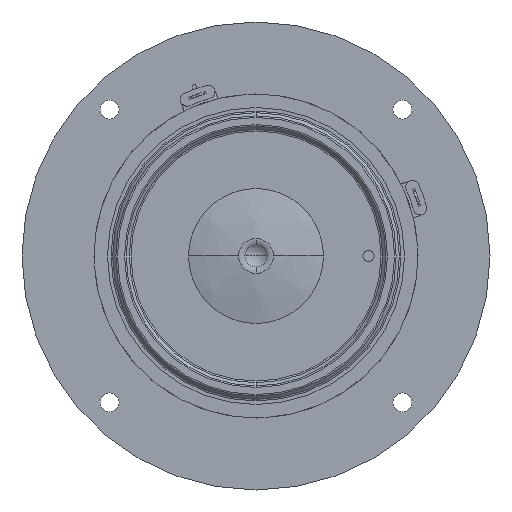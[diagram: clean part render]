
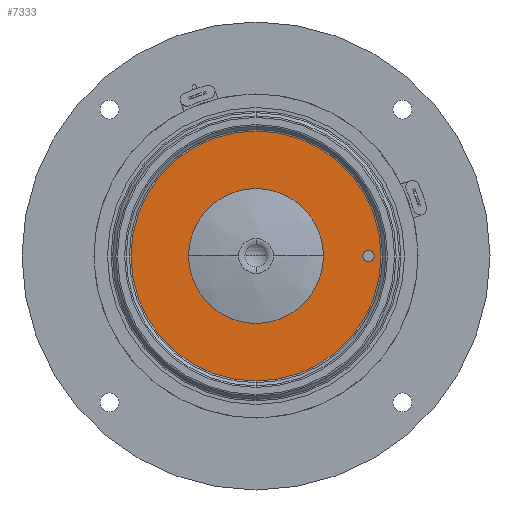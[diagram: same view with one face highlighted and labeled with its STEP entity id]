
A CAD part, front view. The second image highlights one B-rep face of the part: STEP entity #7333.
In plain terms, the highlighted planar face has unit normal (0, -1, 0).
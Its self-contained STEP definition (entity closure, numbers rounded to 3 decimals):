
#279 = CARTESIAN_POINT ( 'NONE',  ( 25., -29.6, 1.25 ) ) ;
#363 = EDGE_LOOP ( 'NONE', ( #1094, #18107 ) ) ;
#394 = CARTESIAN_POINT ( 'NONE',  ( 0., -29.6, 27.793 ) ) ;
#427 = CARTESIAN_POINT ( 'NONE',  ( 0., -29.6, -27.793 ) ) ;
#436 = DIRECTION ( 'NONE',  ( 0., 0., 1. ) ) ;
#685 = VERTEX_POINT ( 'NONE', #394 ) ;
#1094 = ORIENTED_EDGE ( 'NONE', *, *, #16790, .F. ) ;
#1246 = AXIS2_PLACEMENT_3D ( 'NONE', #17228, #7037, #4041 ) ;
#1359 = CARTESIAN_POINT ( 'NONE',  ( 0., -29.6, 0. ) ) ;
#1529 = CIRCLE ( 'NONE', #13895, 27.793 ) ;
#2803 = AXIS2_PLACEMENT_3D ( 'NONE', #18120, #10916, #16820 ) ;
#2943 = DIRECTION ( 'NONE',  ( 0., -1., 0. ) ) ;
#4041 = DIRECTION ( 'NONE',  ( 0., 0., 1. ) ) ;
#4049 = EDGE_LOOP ( 'NONE', ( #17427, #5948 ) ) ;
#4051 = EDGE_LOOP ( 'NONE', ( #12495, #10894 ) ) ;
#4553 = VERTEX_POINT ( 'NONE', #427 ) ;
#4655 = CIRCLE ( 'NONE', #6185, 15. ) ;
#4670 = CARTESIAN_POINT ( 'NONE',  ( 25., -29.6, 0. ) ) ;
#5775 = CARTESIAN_POINT ( 'NONE',  ( 0., -29.6, 0. ) ) ;
#5948 = ORIENTED_EDGE ( 'NONE', *, *, #6274, .T. ) ;
#6105 = CARTESIAN_POINT ( 'NONE',  ( -15., -29.6, 0. ) ) ;
#6153 = EDGE_CURVE ( 'NONE', #12333, #11159, #4655, .T. ) ;
#6185 = AXIS2_PLACEMENT_3D ( 'NONE', #6737, #18690, #17309 ) ;
#6274 = EDGE_CURVE ( 'NONE', #4553, #685, #8648, .T. ) ;
#6737 = CARTESIAN_POINT ( 'NONE',  ( 0., -29.6, 0. ) ) ;
#6907 = DIRECTION ( 'NONE',  ( 0., 0., 1. ) ) ;
#7037 = DIRECTION ( 'NONE',  ( 0., -1., 0. ) ) ;
#7242 = DIRECTION ( 'NONE',  ( 0., -1., 0. ) ) ;
#7244 = AXIS2_PLACEMENT_3D ( 'NONE', #4670, #7556, #436 ) ;
#7333 = ADVANCED_FACE ( 'NONE', ( #7990, #8090, #15268 ), #14103, .F. ) ;
#7556 = DIRECTION ( 'NONE',  ( 0., -1., 0. ) ) ;
#7990 = FACE_BOUND ( 'NONE', #4051, .T. ) ;
#8090 = FACE_OUTER_BOUND ( 'NONE', #4049, .T. ) ;
#8648 = CIRCLE ( 'NONE', #10829, 27.793 ) ;
#9402 = CARTESIAN_POINT ( 'NONE',  ( 15., -29.6, 0. ) ) ;
#10167 = EDGE_CURVE ( 'NONE', #15136, #13588, #14986, .T. ) ;
#10829 = AXIS2_PLACEMENT_3D ( 'NONE', #5775, #2943, #11686 ) ;
#10894 = ORIENTED_EDGE ( 'NONE', *, *, #6153, .T. ) ;
#10916 = DIRECTION ( 'NONE',  ( 0., 1., 0. ) ) ;
#11159 = VERTEX_POINT ( 'NONE', #9402 ) ;
#11686 = DIRECTION ( 'NONE',  ( 0., 0., 1. ) ) ;
#12083 = CIRCLE ( 'NONE', #1246, 1.25 ) ;
#12333 = VERTEX_POINT ( 'NONE', #6105 ) ;
#12495 = ORIENTED_EDGE ( 'NONE', *, *, #14344, .T. ) ;
#13041 = CARTESIAN_POINT ( 'NONE',  ( 0., -29.6, 0. ) ) ;
#13186 = CIRCLE ( 'NONE', #14071, 15. ) ;
#13588 = VERTEX_POINT ( 'NONE', #279 ) ;
#13895 = AXIS2_PLACEMENT_3D ( 'NONE', #1359, #7242, #18124 ) ;
#14071 = AXIS2_PLACEMENT_3D ( 'NONE', #13041, #18786, #6907 ) ;
#14103 = PLANE ( 'NONE',  #2803 ) ;
#14344 = EDGE_CURVE ( 'NONE', #11159, #12333, #13186, .T. ) ;
#14986 = CIRCLE ( 'NONE', #7244, 1.25 ) ;
#15136 = VERTEX_POINT ( 'NONE', #16303 ) ;
#15268 = FACE_BOUND ( 'NONE', #363, .T. ) ;
#16303 = CARTESIAN_POINT ( 'NONE',  ( 25., -29.6, -1.25 ) ) ;
#16657 = EDGE_CURVE ( 'NONE', #685, #4553, #1529, .T. ) ;
#16790 = EDGE_CURVE ( 'NONE', #13588, #15136, #12083, .T. ) ;
#16820 = DIRECTION ( 'NONE',  ( 0., 0., 1. ) ) ;
#17228 = CARTESIAN_POINT ( 'NONE',  ( 25., -29.6, 0. ) ) ;
#17309 = DIRECTION ( 'NONE',  ( 0., 0., 1. ) ) ;
#17427 = ORIENTED_EDGE ( 'NONE', *, *, #16657, .T. ) ;
#18107 = ORIENTED_EDGE ( 'NONE', *, *, #10167, .F. ) ;
#18120 = CARTESIAN_POINT ( 'NONE',  ( 28., -29.6, 0. ) ) ;
#18124 = DIRECTION ( 'NONE',  ( 0., 0., 1. ) ) ;
#18690 = DIRECTION ( 'NONE',  ( 0., 1., 0. ) ) ;
#18786 = DIRECTION ( 'NONE',  ( 0., 1., 0. ) ) ;
